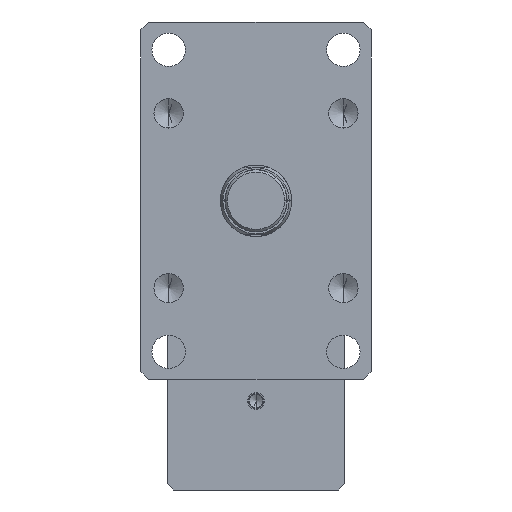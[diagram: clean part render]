
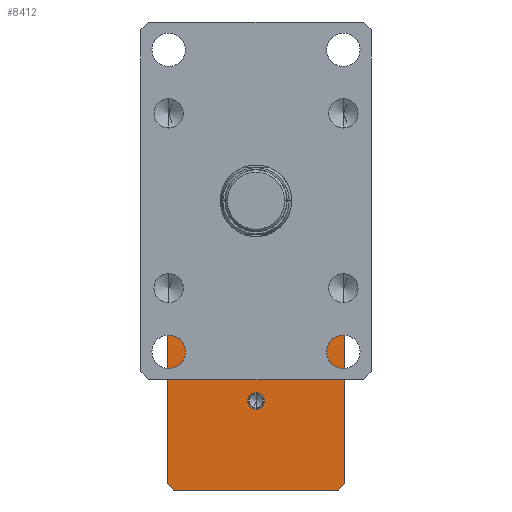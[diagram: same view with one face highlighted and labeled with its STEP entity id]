
A CAD part, left-side view. The second image highlights one B-rep face of the part: STEP entity #8412.
In plain terms, the highlighted planar face has unit normal (-1, 0, 0).
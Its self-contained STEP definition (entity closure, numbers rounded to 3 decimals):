
#636 = PLANE ( 'NONE',  #3417 ) ;
#881 = VERTEX_POINT ( 'NONE', #7187 ) ;
#1001 = CARTESIAN_POINT ( 'NONE',  ( 275., -56., -182. ) ) ;
#1096 = VECTOR ( 'NONE', #11415, 1000. ) ;
#1197 = CIRCLE ( 'NONE', #2652, 5.143 ) ;
#1234 = CARTESIAN_POINT ( 'NONE',  ( 275., 0., -120.857 ) ) ;
#1413 = CARTESIAN_POINT ( 'NONE',  ( 275., 52., -182. ) ) ;
#1648 = DIRECTION ( 'NONE',  ( 0., 0., -1. ) ) ;
#1900 = VECTOR ( 'NONE', #5608, 1000. ) ;
#2126 = VECTOR ( 'NONE', #11165, 1000. ) ;
#2222 = EDGE_CURVE ( 'NONE', #881, #3783, #10180, .T. ) ;
#2261 = EDGE_CURVE ( 'NONE', #8789, #11850, #10918, .T. ) ;
#2287 = LINE ( 'NONE', #2728, #4352 ) ;
#2374 = CARTESIAN_POINT ( 'NONE',  ( 275., -56., -74. ) ) ;
#2569 = VERTEX_POINT ( 'NONE', #1413 ) ;
#2652 = AXIS2_PLACEMENT_3D ( 'NONE', #5298, #12103, #6290 ) ;
#2727 = EDGE_LOOP ( 'NONE', ( #12797, #10174, #4879, #12739, #4900, #12406, #5347, #4756 ) ) ;
#2728 = CARTESIAN_POINT ( 'NONE',  ( 275., -56., -182. ) ) ;
#3417 = AXIS2_PLACEMENT_3D ( 'NONE', #3632, #7639, #1648 ) ;
#3427 = DIRECTION ( 'NONE',  ( 0., -0.707, -0.707 ) ) ;
#3632 = CARTESIAN_POINT ( 'NONE',  ( 275., -56., -182. ) ) ;
#3635 = VECTOR ( 'NONE', #3892, 1000. ) ;
#3783 = VERTEX_POINT ( 'NONE', #7667 ) ;
#3791 = LINE ( 'NONE', #7522, #1096 ) ;
#3833 = CARTESIAN_POINT ( 'NONE',  ( 275., -52., -182. ) ) ;
#3850 = VERTEX_POINT ( 'NONE', #3833 ) ;
#3892 = DIRECTION ( 'NONE',  ( 0., -0.707, 0.707 ) ) ;
#4136 = VERTEX_POINT ( 'NONE', #9879 ) ;
#4280 = FACE_BOUND ( 'NONE', #11429, .T. ) ;
#4320 = CARTESIAN_POINT ( 'NONE',  ( 275., 56., -74. ) ) ;
#4341 = VERTEX_POINT ( 'NONE', #7218 ) ;
#4352 = VECTOR ( 'NONE', #4901, 1000. ) ;
#4577 = LINE ( 'NONE', #11441, #1900 ) ;
#4756 = ORIENTED_EDGE ( 'NONE', *, *, #12161, .T. ) ;
#4879 = ORIENTED_EDGE ( 'NONE', *, *, #12384, .T. ) ;
#4900 = ORIENTED_EDGE ( 'NONE', *, *, #2222, .F. ) ;
#4901 = DIRECTION ( 'NONE',  ( 0., 1., 0. ) ) ;
#5298 = CARTESIAN_POINT ( 'NONE',  ( 275., 0., -126. ) ) ;
#5347 = ORIENTED_EDGE ( 'NONE', *, *, #9289, .F. ) ;
#5608 = DIRECTION ( 'NONE',  ( 0., 0.707, 0.707 ) ) ;
#5737 = VECTOR ( 'NONE', #6994, 1000. ) ;
#5832 = LINE ( 'NONE', #10299, #11010 ) ;
#5973 = CARTESIAN_POINT ( 'NONE',  ( 275., 56., -182. ) ) ;
#5992 = CARTESIAN_POINT ( 'NONE',  ( 275., 0., -126. ) ) ;
#6290 = DIRECTION ( 'NONE',  ( 0., 0., 1. ) ) ;
#6522 = CIRCLE ( 'NONE', #10503, 5.143 ) ;
#6532 = EDGE_CURVE ( 'NONE', #6692, #4136, #6522, .T. ) ;
#6574 = CARTESIAN_POINT ( 'NONE',  ( 275., -56., -178. ) ) ;
#6589 = LINE ( 'NONE', #8813, #3635 ) ;
#6692 = VERTEX_POINT ( 'NONE', #1234 ) ;
#6797 = VERTEX_POINT ( 'NONE', #8376 ) ;
#6892 = FACE_OUTER_BOUND ( 'NONE', #2727, .T. ) ;
#6940 = DIRECTION ( 'NONE',  ( 0., 0., 1. ) ) ;
#6964 = DIRECTION ( 'NONE',  ( 0., 0., 1. ) ) ;
#6994 = DIRECTION ( 'NONE',  ( 0., 0., 1. ) ) ;
#7187 = CARTESIAN_POINT ( 'NONE',  ( 275., 56., -178. ) ) ;
#7218 = CARTESIAN_POINT ( 'NONE',  ( 275., -52., -70. ) ) ;
#7522 = CARTESIAN_POINT ( 'NONE',  ( 275., -56., -70. ) ) ;
#7639 = DIRECTION ( 'NONE',  ( 1., 0., 0. ) ) ;
#7667 = CARTESIAN_POINT ( 'NONE',  ( 275., 56., -74. ) ) ;
#7758 = LINE ( 'NONE', #4320, #2126 ) ;
#8376 = CARTESIAN_POINT ( 'NONE',  ( 275., 52., -70. ) ) ;
#8412 = ADVANCED_FACE ( 'NONE', ( #4280, #6892 ), #636, .F. ) ;
#8789 = VERTEX_POINT ( 'NONE', #6574 ) ;
#8813 = CARTESIAN_POINT ( 'NONE',  ( 275., -52., -182. ) ) ;
#8841 = ORIENTED_EDGE ( 'NONE', *, *, #9054, .F. ) ;
#9054 = EDGE_CURVE ( 'NONE', #4136, #6692, #1197, .T. ) ;
#9289 = EDGE_CURVE ( 'NONE', #3850, #2569, #2287, .T. ) ;
#9547 = EDGE_CURVE ( 'NONE', #6797, #3783, #7758, .T. ) ;
#9879 = CARTESIAN_POINT ( 'NONE',  ( 275., 0., -131.143 ) ) ;
#10174 = ORIENTED_EDGE ( 'NONE', *, *, #12782, .T. ) ;
#10180 = LINE ( 'NONE', #5973, #12716 ) ;
#10299 = CARTESIAN_POINT ( 'NONE',  ( 275., 52., -182. ) ) ;
#10503 = AXIS2_PLACEMENT_3D ( 'NONE', #5992, #12768, #6964 ) ;
#10918 = LINE ( 'NONE', #1001, #5737 ) ;
#11010 = VECTOR ( 'NONE', #3427, 1000. ) ;
#11165 = DIRECTION ( 'NONE',  ( 0., 0.707, -0.707 ) ) ;
#11415 = DIRECTION ( 'NONE',  ( 0., 1., 0. ) ) ;
#11429 = EDGE_LOOP ( 'NONE', ( #11528, #8841 ) ) ;
#11441 = CARTESIAN_POINT ( 'NONE',  ( 275., -56., -74. ) ) ;
#11528 = ORIENTED_EDGE ( 'NONE', *, *, #6532, .F. ) ;
#11850 = VERTEX_POINT ( 'NONE', #2374 ) ;
#12103 = DIRECTION ( 'NONE',  ( -1., 0., 0. ) ) ;
#12161 = EDGE_CURVE ( 'NONE', #3850, #8789, #6589, .T. ) ;
#12384 = EDGE_CURVE ( 'NONE', #4341, #6797, #3791, .T. ) ;
#12406 = ORIENTED_EDGE ( 'NONE', *, *, #12663, .T. ) ;
#12663 = EDGE_CURVE ( 'NONE', #881, #2569, #5832, .T. ) ;
#12716 = VECTOR ( 'NONE', #6940, 1000. ) ;
#12739 = ORIENTED_EDGE ( 'NONE', *, *, #9547, .T. ) ;
#12768 = DIRECTION ( 'NONE',  ( -1., 0., 0. ) ) ;
#12782 = EDGE_CURVE ( 'NONE', #11850, #4341, #4577, .T. ) ;
#12797 = ORIENTED_EDGE ( 'NONE', *, *, #2261, .T. ) ;
